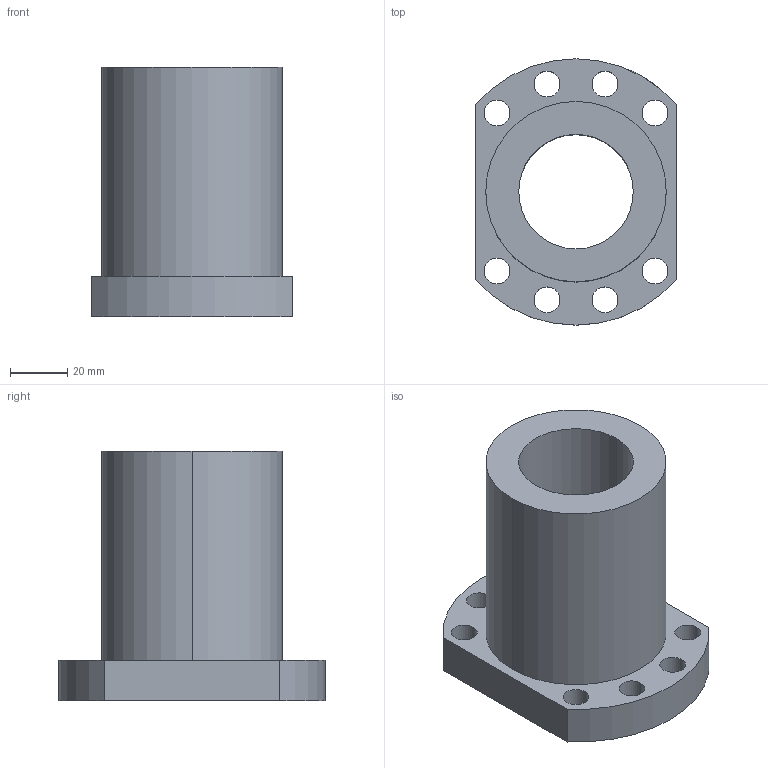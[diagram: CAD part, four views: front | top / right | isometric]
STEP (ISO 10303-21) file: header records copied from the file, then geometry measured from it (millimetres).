
FILE_DESCRIPTION((''),'2;1');
FILE_NAME('A10B7PA1','2018-09-06T',('chw'),(''),'PRO/ENGINEER BY PARAMETRIC TECHNOLOGY CORPORATION, 2012200','PRO/ENGINEER BY PARAMETRIC TECHNOLOGY CORPORATION, 2012200','');
FILE_SCHEMA(('CONFIG_CONTROL_DESIGN'));
Length unit declared in the file: millimetre
Products named in the file (1): A10B7PA1
Bounding box: 70 x 93 x 87 mm (x, y, z)
Volume: 191364.5 mm3; surface area: 41174.1 mm2
Topology: 1 solids, 1 shells, 29 faces, 78 edges, 52 vertices
Faces by surface type: cylinder 24, plane 5
Entity records: 1066 total; most frequent: CARTESIAN_POINT 219, DIRECTION 176, ORIENTED_EDGE 156, EDGE_CURVE 78, AXIS2_PLACEMENT_3D 73, VERTEX_POINT 52, EDGE_LOOP 50, CIRCLE 44
